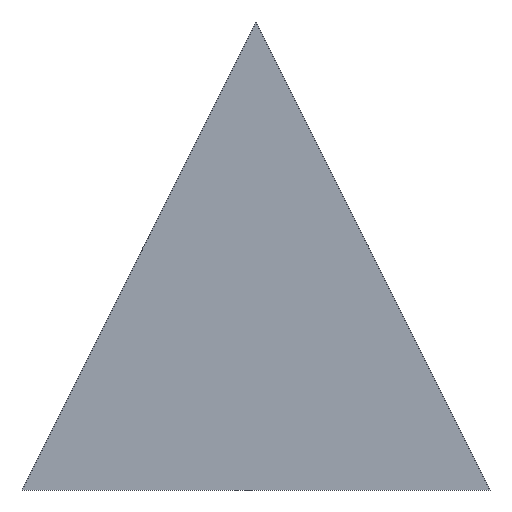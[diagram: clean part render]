
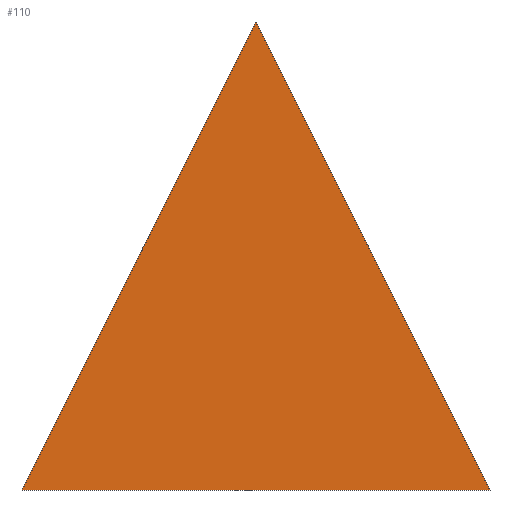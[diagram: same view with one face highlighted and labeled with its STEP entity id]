
A CAD part, front view. The second image highlights one B-rep face of the part: STEP entity #110.
In plain terms, the highlighted planar face has unit normal (0, -1, 0).
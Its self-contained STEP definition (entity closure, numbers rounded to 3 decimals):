
#22 = VERTEX_POINT('',#23);
#23 = CARTESIAN_POINT('',(-0.5,-16.,28.5));
#40 = VERTEX_POINT('',#41);
#41 = CARTESIAN_POINT('',(6.5,-16.,28.5));
#47 = EDGE_CURVE('',#22,#40,#48,.T.);
#48 = LINE('',#49,#50);
#49 = CARTESIAN_POINT('',(-0.25,-16.,28.5));
#50 = VECTOR('',#51,1.);
#51 = DIRECTION('',(1.,0.,0.));
#62 = VERTEX_POINT('',#63);
#63 = CARTESIAN_POINT('',(3.,-16.,35.5));
#78 = EDGE_CURVE('',#62,#22,#79,.T.);
#79 = LINE('',#80,#81);
#80 = CARTESIAN_POINT('',(-4.4,-16.,20.7));
#81 = VECTOR('',#82,1.);
#82 = DIRECTION('',(-0.447,0.,-0.894));
#100 = EDGE_CURVE('',#40,#62,#101,.T.);
#101 = LINE('',#102,#103);
#102 = CARTESIAN_POINT('',(11.55,-16.,18.4));
#103 = VECTOR('',#104,1.);
#104 = DIRECTION('',(-0.447,0.,0.894));
#110 = ADVANCED_FACE('',(#111),#116,.F.);
#111 = FACE_BOUND('',#112,.F.);
#112 = EDGE_LOOP('',(#113,#114,#115));
#113 = ORIENTED_EDGE('',*,*,#47,.F.);
#114 = ORIENTED_EDGE('',*,*,#78,.F.);
#115 = ORIENTED_EDGE('',*,*,#100,.F.);
#116 = PLANE('',#117);
#117 = AXIS2_PLACEMENT_3D('',#118,#119,#120);
#118 = CARTESIAN_POINT('',(0.,-16.,0.));
#119 = DIRECTION('',(0.,1.,0.));
#120 = DIRECTION('',(0.,0.,1.));
